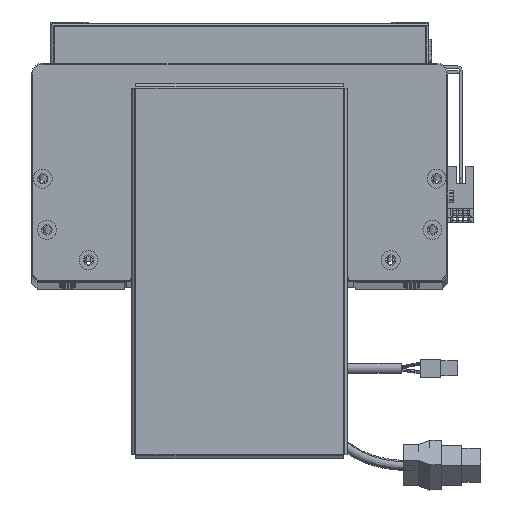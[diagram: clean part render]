
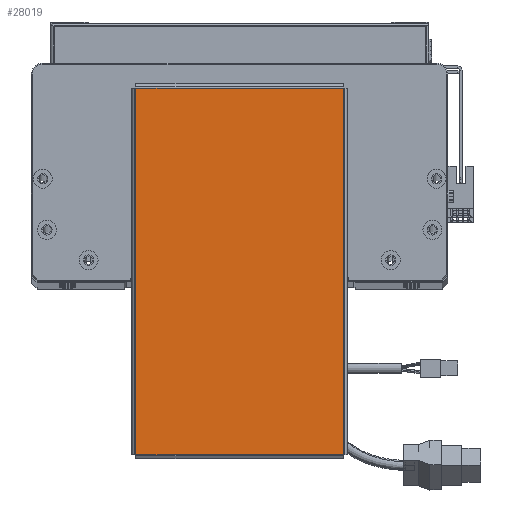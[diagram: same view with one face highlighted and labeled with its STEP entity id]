
A CAD part, top view. The second image highlights one B-rep face of the part: STEP entity #28019.
In plain terms, the highlighted planar face has unit normal (0, 0, 1).
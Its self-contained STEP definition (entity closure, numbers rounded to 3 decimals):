
#2723 = CARTESIAN_POINT ( 'NONE',  ( -96.763, 54.793, 0. ) ) ;
#3308 = EDGE_CURVE ( 'NONE', #66903, #54196, #30485, .T. ) ;
#5943 = VECTOR ( 'NONE', #67589, 1000. ) ;
#7017 = DIRECTION ( 'NONE',  ( -1., 0., 0. ) ) ;
#9376 = PLANE ( 'NONE',  #19617 ) ;
#9501 = LINE ( 'NONE', #66589, #31363 ) ;
#11530 = CARTESIAN_POINT ( 'NONE',  ( 96.793, 54.763, 0. ) ) ;
#12490 = EDGE_CURVE ( 'NONE', #16368, #66903, #30818, .T. ) ;
#12836 = ORIENTED_EDGE ( 'NONE', *, *, #54423, .T. ) ;
#13835 = CARTESIAN_POINT ( 'NONE',  ( -96.763, 54.763, 0. ) ) ;
#14328 = ORIENTED_EDGE ( 'NONE', *, *, #42400, .T. ) ;
#16368 = VERTEX_POINT ( 'NONE', #27094 ) ;
#19617 = AXIS2_PLACEMENT_3D ( 'NONE', #62867, #57682, #58378 ) ;
#20911 = FACE_OUTER_BOUND ( 'NONE', #60493, .T. ) ;
#21457 = DIRECTION ( 'NONE',  ( 0., 1., 0. ) ) ;
#26982 = ORIENTED_EDGE ( 'NONE', *, *, #12490, .T. ) ;
#27094 = CARTESIAN_POINT ( 'NONE',  ( 96.763, 54.763, 0. ) ) ;
#27120 = LINE ( 'NONE', #43466, #32176 ) ;
#28019 = ADVANCED_FACE ( 'NONE', ( #20911 ), #9376, .T. ) ;
#29112 = VECTOR ( 'NONE', #7017, 1000. ) ;
#30094 = DIRECTION ( 'NONE',  ( 1., 0., 0. ) ) ;
#30485 = LINE ( 'NONE', #2723, #5943 ) ;
#30818 = LINE ( 'NONE', #11530, #29112 ) ;
#31363 = VECTOR ( 'NONE', #30094, 1000. ) ;
#32176 = VECTOR ( 'NONE', #21457, 1000. ) ;
#35713 = ORIENTED_EDGE ( 'NONE', *, *, #3308, .T. ) ;
#37710 = CARTESIAN_POINT ( 'NONE',  ( -96.763, -54.763, 0. ) ) ;
#42400 = EDGE_CURVE ( 'NONE', #66019, #16368, #27120, .T. ) ;
#43466 = CARTESIAN_POINT ( 'NONE',  ( 96.763, -54.793, 0. ) ) ;
#43746 = CARTESIAN_POINT ( 'NONE',  ( 96.763, -54.763, 0. ) ) ;
#54196 = VERTEX_POINT ( 'NONE', #37710 ) ;
#54423 = EDGE_CURVE ( 'NONE', #54196, #66019, #9501, .T. ) ;
#57682 = DIRECTION ( 'NONE',  ( 0., 0., 1. ) ) ;
#58378 = DIRECTION ( 'NONE',  ( 1., 0., 0. ) ) ;
#60493 = EDGE_LOOP ( 'NONE', ( #12836, #14328, #26982, #35713 ) ) ;
#62867 = CARTESIAN_POINT ( 'NONE',  ( 0., 0., 0. ) ) ;
#66019 = VERTEX_POINT ( 'NONE', #43746 ) ;
#66589 = CARTESIAN_POINT ( 'NONE',  ( -96.793, -54.763, 0. ) ) ;
#66903 = VERTEX_POINT ( 'NONE', #13835 ) ;
#67589 = DIRECTION ( 'NONE',  ( 0., -1., 0. ) ) ;
